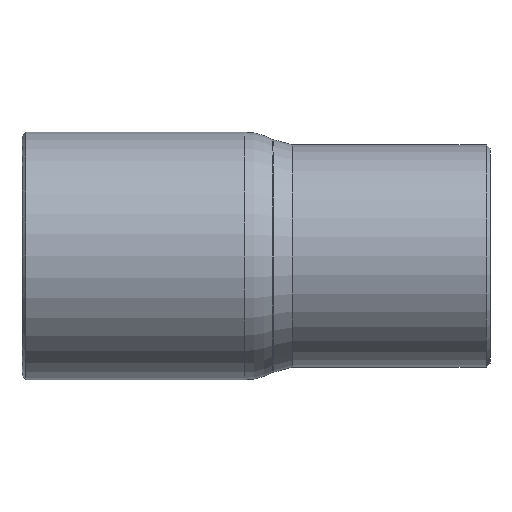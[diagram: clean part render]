
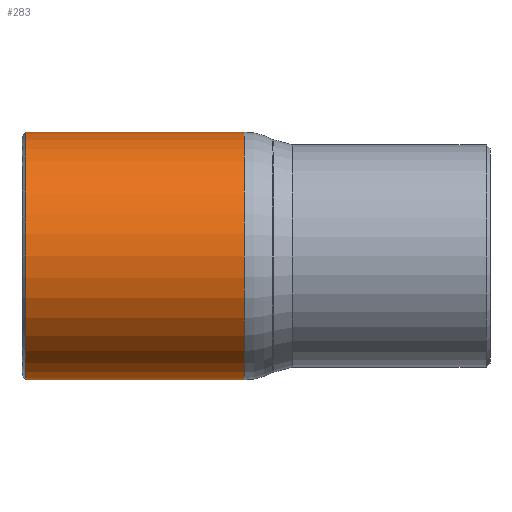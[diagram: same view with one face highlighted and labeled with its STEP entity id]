
A CAD part, front view. The second image highlights one B-rep face of the part: STEP entity #283.
In plain terms, the highlighted cylindrical face has radius 6.35 mm (diameter 12.7 mm), a full revolution.
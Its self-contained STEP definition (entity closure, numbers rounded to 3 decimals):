
#252=CARTESIAN_POINT('',(-15.2,6.35,0.));
#253=VERTEX_POINT('',#252);
#254=CARTESIAN_POINT('',(-15.2,0.0,0.0));
#255=DIRECTION('',(-1.0,0.0,0.0));
#256=DIRECTION('',(0.0,-1.0,0.0));
#257=AXIS2_PLACEMENT_3D('',#254,#255,#256);
#258=CIRCLE('',#257,6.35);
#259=EDGE_CURVE('',#253,#253,#258,.T.);
#264=CARTESIAN_POINT('',(-9.7,0.0,0.0));
#265=DIRECTION('',(1.0,0.0,0.0));
#266=DIRECTION('',(0.0,1.0,0.0));
#267=AXIS2_PLACEMENT_3D('',#264,#265,#266);
#268=CYLINDRICAL_SURFACE('',#267,6.35);
#269=CARTESIAN_POINT('',(-4.,6.35,0.0));
#270=VERTEX_POINT('',#269);
#271=CARTESIAN_POINT('',(-4.,0.0,0.0));
#272=DIRECTION('',(1.0,0.0,0.0));
#273=DIRECTION('',(0.0,1.0,0.0));
#274=AXIS2_PLACEMENT_3D('',#271,#272,#273);
#275=CIRCLE('',#274,6.35);
#276=EDGE_CURVE('',#270,#270,#275,.T.);
#277=ORIENTED_EDGE('',*,*,#276,.F.);
#278=EDGE_LOOP('',(#277));
#279=FACE_OUTER_BOUND('',#278,.T.);
#280=ORIENTED_EDGE('',*,*,#259,.F.);
#281=EDGE_LOOP('',(#280));
#282=FACE_BOUND('',#281,.T.);
#283=ADVANCED_FACE('',(#279,#282),#268,.T.);
